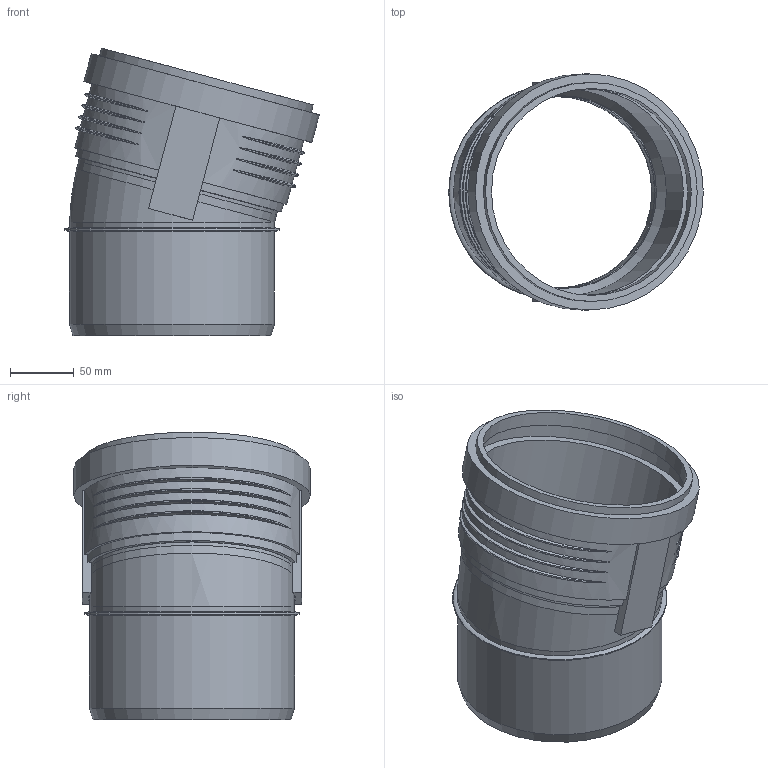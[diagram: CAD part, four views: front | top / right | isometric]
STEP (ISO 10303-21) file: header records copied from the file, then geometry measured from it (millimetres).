
FILE_DESCRIPTION(/* description */ (''),/* implementation_level */ '2;1');
FILE_NAME(/* name */ 'Z:\Geberit\Export\NewStep\390720.stp',/* time_stamp */ '2014-04-02T08:16:33+02:00',/* author */ ('ML'),/* organization */ (''),/* preprocessor_version */ 'ST-DEVELOPER v15.2',/* originating_system */ 'Autodesk Inventor 2014',/* authorisation */ '');
FILE_SCHEMA (('AUTOMOTIVE_DESIGN { 1 0 10303 214 3 1 1 }'));
Length unit declared in the file: millimetre
Products named in the file (3): 861596; 861560; 390720
Bounding box: 199.05 x 184.5 x 224.84 mm (x, y, z)
Volume: 594988.6 mm3; surface area: 249931.7 mm2
Topology: 2 solids, 2 shells, 68 faces, 162 edges, 109 vertices
Faces by surface type: torus 28, plane 19, cylinder 18, cone 2, bspline 1
Full cylindrical faces by diameter (mm): 149.85 x2, 150.65 x1, 160.25 x4, 161.7 x2, 171.3 x1, 174.9 x1, 184.5 x1
Entity records: 2726 total; most frequent: CARTESIAN_POINT 1150, DIRECTION 290, ORIENTED_EDGE 278, EDGE_CURVE 139, AXIS2_PLACEMENT_3D 127, VERTEX_POINT 106, EDGE_LOOP 103, STYLED_ITEM 70
